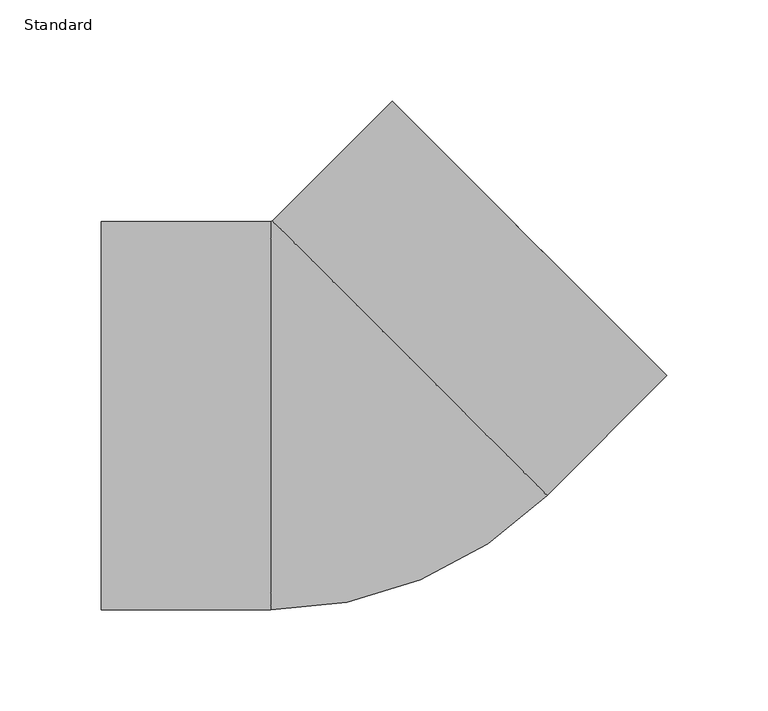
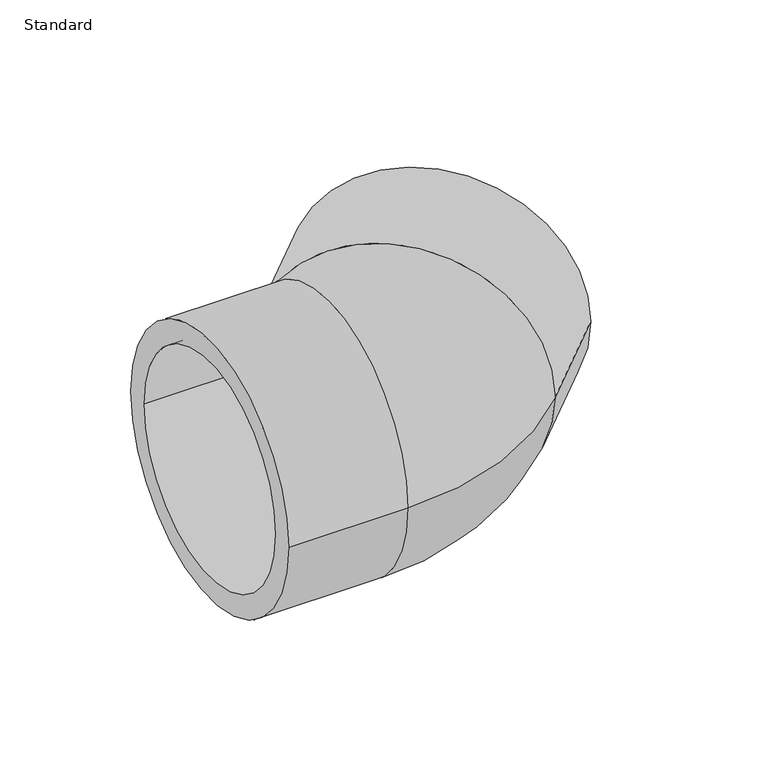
"""IFC4 building model written with IfcOpenShell, lengths in millimetres: pipe fitting geometry, Durapipe_PipeFitting_PVC_Elbow45deg : Standard."""

from ifc_helpers import new_model, si_unit, point, frame, origin, place, context, project, spatial, polyline, circle_curve, ellipse_curve, trimmed, source, transform, mapped, element, save
from ifc_brep_helpers import plane_surface, cylinder_surface, revolved_surface, advanced_brep


def standard_411a4655(model_context):
    return source(origin(), model_context, "Body", "AdvancedBrep", [
        advanced_brep(
        [(-124.0, -96.0, 0.0), (-124.0, 96.0, 0.0), (-124.0, -80.0, 0.0), (-124.0, 80.0, 0.0), (-40.264502, -96.0, 0.0), (-40.264502, 96.0, 0.0), (96.3535534, -39.4109486, 0.0), (-39.4109486, 96.3535534, 0.0), (155.5634919, 19.7989899, 0.0), (19.7989899, 155.5634919, 0.0), (31.1126984, 144.2497834, 0.0), (144.2497834, 31.1126984, 0.0), (-38.0, 80.0, 0.0), (-38.0, -80.0, 0.0), (-38.0, 0.0, 0.0), (-29.6984848, 83.4386002, 0.0), (26.8700577, 26.8700577, 0.0), (83.4386002, -29.6984848, 0.0)],
        [
            (0, 1, circle_curve(frame((-124.0, 0.0, 0.0), z_axis=(-1.0, 0.0, 0.0), x_axis=(0.0, 1.0, 0.0)), 96.0)),
            (1, 0, circle_curve(frame((-124.0, 0.0, 0.0), z_axis=(-1.0, 0.0, 0.0), x_axis=(0.0, 1.0, 0.0)), 96.0)),
            (2, 3, circle_curve(frame((-124.0, 0.0, 0.0), z_axis=(1.0, 0.0, 0.0), x_axis=(0.0, -1.0, 0.0)), 80.0)),
            (3, 2, circle_curve(frame((-124.0, 0.0, 0.0), z_axis=(1.0, 0.0, 0.0), x_axis=(0.0, -1.0, 0.0)), 80.0)),
            (0, 4),
            (4, 5, circle_curve(frame((-40.264502, 0.0, 0.0), z_axis=(-1.0, 0.0, 0.0), x_axis=(0.0, 1.0, 0.0)), 96.0)),
            (5, 1),
            (5, 4, circle_curve(frame((-40.264502, 0.0, 0.0), z_axis=(-1.0, 0.0, 0.0), x_axis=(0.0, 1.0, 0.0)), 96.0)),
            (4, 6, circle_curve(frame((-40.264502, 97.2071068, 0.0), z_axis=(0.0, 0.0, 1.0), x_axis=(0.0, -1.0, 0.0)), 193.2071068)),
            (6, 7, circle_curve(frame((28.4713024, 28.4713024, 0.0), z_axis=(-0.7071067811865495, -0.7071067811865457, 0.0), x_axis=(-0.7071067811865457, 0.7071067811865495, 0.0)), 96.0)),
            (7, 5, circle_curve(frame((-40.264502, 97.2071068, 0.0), z_axis=(0.0, 0.0, -1.0), x_axis=(0.0, -1.0, 0.0)), 1.2071068)),
            (7, 6, circle_curve(frame((28.4713024, 28.4713024, 0.0), z_axis=(-0.7071067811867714, -0.7071067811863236, 0.0), x_axis=(-0.7071067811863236, 0.7071067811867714, 0.0)), 96.0)),
            (8, 9, circle_curve(frame((87.6812409, 87.6812409, 0.0), z_axis=(0.7071067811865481, 0.7071067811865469, 0.0), x_axis=(-0.7071067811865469, 0.7071067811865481, 0.0)), 96.0)),
            (9, 8, circle_curve(frame((87.6812409, 87.6812409, 0.0), z_axis=(0.7071067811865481, 0.7071067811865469, 0.0), x_axis=(-0.7071067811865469, 0.7071067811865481, 0.0)), 96.0)),
            (10, 11, circle_curve(frame((87.6812409, 87.6812409, 0.0), z_axis=(-0.707106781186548, -0.707106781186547, 0.0), x_axis=(0.707106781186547, -0.707106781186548, 0.0)), 80.0)),
            (11, 10, circle_curve(frame((87.6812409, 87.6812409, 0.0), z_axis=(-0.707106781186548, -0.707106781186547, 0.0), x_axis=(0.707106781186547, -0.707106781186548, 0.0)), 80.0)),
            (6, 8),
            (9, 7),
            (12, 3),
            (2, 13),
            (13, 12, circle_curve(frame((-38.0, 0.0, 0.0), z_axis=(1.0, 0.0, 0.0), x_axis=(0.0, -1.0, 0.0)), 80.0)),
            (12, 13, circle_curve(frame((-38.0, 0.0, 0.0), z_axis=(1.0, 0.0, 0.0), x_axis=(0.0, -1.0, 0.0)), 80.0)),
            (13, 14),
            (14, 12),
            (15, 16),
            (16, 17),
            (17, 15, circle_curve(frame((26.8700577, 26.8700577, 0.0), z_axis=(0.707106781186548, 0.707106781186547, 0.0), x_axis=(0.707106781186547, -0.707106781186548, 0.0)), 80.0)),
            (15, 17, circle_curve(frame((26.8700577, 26.8700577, 0.0), z_axis=(0.707106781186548, 0.707106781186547, 0.0), x_axis=(0.707106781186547, -0.707106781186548, 0.0)), 80.0)),
            (17, 11),
            (10, 15),
        ],
        [
            plane_surface(frame((-124.0, 0.0, 0.0), z_axis=(-1.0, 0.0, 0.0), x_axis=(0.0, 0.0, 1.0))),
            cylinder_surface(frame((-124.0, 0.0, 0.0), z_axis=(-1.0, 0.0, 0.0), x_axis=(0.0, 1.0, 0.0)), 96.0),
            revolved_surface(trimmed(ellipse_curve(frame((-40.264502, 0.0, 0.0), z_axis=(-1.0, 0.0, 0.0), x_axis=(0.0, 1.0, 0.0)), 96.0, 96.0), [point((-40.264502, -96.0, 0.0))], [point((-40.264502, 96.0, 0.0))], True, "CARTESIAN"), (-40.264502, 97.2071068, 0.0), (0.0, 0.0, 1.0)),
            revolved_surface(trimmed(ellipse_curve(frame((-40.264502, 0.0, 0.0), z_axis=(-1.0, 0.0, 0.0), x_axis=(0.0, 1.0, 0.0)), 96.0, 96.0), [point((-40.264502, 96.0, 0.0))], [point((-40.264502, -96.0, 0.0))], True, "CARTESIAN"), (-40.264502, 97.2071068, 0.0), (0.0, 0.0, 1.0)),
            plane_surface(frame((87.6812409, 87.6812409, 0.0), z_axis=(0.7071067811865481, 0.7071067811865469, 0.0), x_axis=(0.0, 0.0, 1.0))),
            cylinder_surface(frame((28.4713024, 28.4713024, 0.0), z_axis=(-0.7071067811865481, -0.7071067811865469, 0.0), x_axis=(-0.7071067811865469, 0.7071067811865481, 0.0)), 96.0),
            revolved_surface(polyline([(-38.0, -80.0, 0.0), (-124.0, -80.0, 0.0)]), (2000.0, 0.0, 0.0), (1.0, 0.0, 0.0)),
            plane_surface(frame((-38.0, 0.0, 0.0), z_axis=(-1.0, 0.0, 0.0), x_axis=(0.0, -1.0, 0.0))),
            plane_surface(frame((26.8700577, 26.8700577, 0.0), z_axis=(0.707106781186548, 0.707106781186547, 0.0), x_axis=(0.707106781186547, -0.707106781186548, 0.0))),
            revolved_surface(polyline([(144.2497833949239, 31.112698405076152, 0.0), (83.43860019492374, -29.698484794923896, 0.0)]), (0.0, 0.0, 0.0), (0.707106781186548, 0.707106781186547, 0.0)),
        ],
        [
            (0, [[1, 2], [3, 4]]),
            (1, [[-1, 5, 6, 7]]),
            (1, [[-2, -7, 8, -5]]),
            (2, [[-6, 9, 10, 11]]),
            (3, [[-8, -11, 12, -9]]),
            (4, [[13, 14], [15, 16]]),
            (5, [[-10, 17, -14, 18]]),
            (5, [[-12, -18, -13, -17]]),
            (6, [[19, -3, 20, 21]]),
            (6, [[-19, 22, -20, -4]]),
            (7, [[-21, 23, 24]]),
            (7, [[-22, -24, -23]]),
            (8, [[25, 26, 27]]),
            (8, [[-25, 28, -26]]),
            (9, [[-27, 29, -15, 30]]),
            (9, [[-28, -30, -16, -29]]),
        ],
    ),
    ])


if __name__ == "__main__":
    model = new_model("IFC4")
    model_context = context("Model", 3, world=origin())
    ifc_project = project(units=[si_unit("LENGTHUNIT", "METRE", prefix="MILLI")], contexts=[model_context])
    site = spatial("IfcSite", under=ifc_project)
    building = spatial("IfcBuilding", under=site)
    placement = place(None, origin())
    standard_shape = standard_411a4655(model_context)
    element("IfcPipeFitting", 1, ObjectType="Durapipe_PipeFitting_PVC_Elbow45deg : Standard", at=placement, inside=building, context=model_context, shape_type="MappedRepresentation", body=[
        mapped(standard_shape, transform((0.0, 0.0, 0.0), x_axis=(1.0, 0.0, 0.0), y_axis=(0.0, 1.0, 0.0), z_axis=(0.0, 0.0, 1.0))),
    ])
    save(model, "model.ifc")
